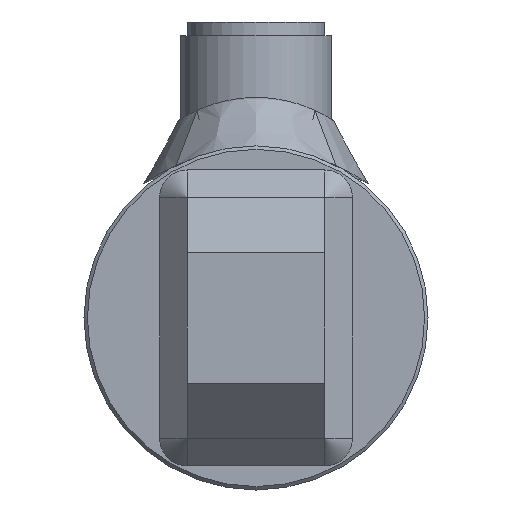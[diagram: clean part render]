
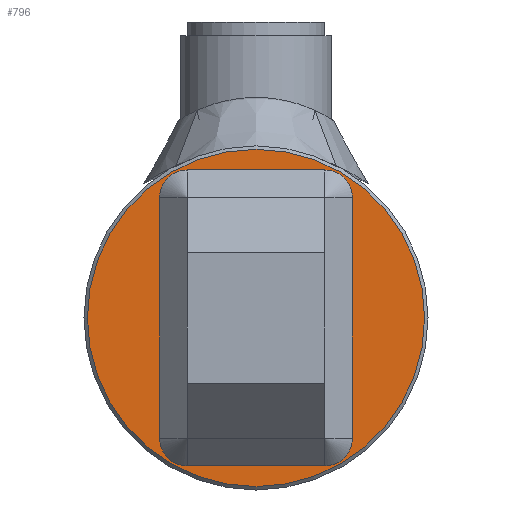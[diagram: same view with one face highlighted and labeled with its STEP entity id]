
A CAD part, left-side view. The second image highlights one B-rep face of the part: STEP entity #796.
In plain terms, the highlighted planar face has unit normal (-1, 0, 0).
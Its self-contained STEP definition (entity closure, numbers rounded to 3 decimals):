
#796 = ADVANCED_FACE( '', ( #1483 ), #1484, .T. );
#1483 = FACE_OUTER_BOUND( '', #2611, .T. );
#1484 = PLANE( '', #2612 );
#2611 = EDGE_LOOP( '', ( #5786 ) );
#2612 = AXIS2_PLACEMENT_3D( '', #5787, #5788, #5789 );
#5786 = ORIENTED_EDGE( '', *, *, #7066, .T. );
#5787 = CARTESIAN_POINT( '', ( -10., 0., 0. ) );
#5788 = DIRECTION( '', ( -1., 0., 0. ) );
#5789 = DIRECTION( '', ( 0., -1., 0. ) );
#7066 = EDGE_CURVE( '', #7926, #7926, #7927, .T. );
#7926 = VERTEX_POINT( '', #9058 );
#7927 = CIRCLE( '', #9059, 24.5 );
#9058 = CARTESIAN_POINT( '', ( -10., -24.5, 0. ) );
#9059 = AXIS2_PLACEMENT_3D( '', #10588, #10589, #10590 );
#10588 = CARTESIAN_POINT( '', ( -10., 0., 0. ) );
#10589 = DIRECTION( '', ( -1., 0., 0. ) );
#10590 = DIRECTION( '', ( 0., -1., 0. ) );
